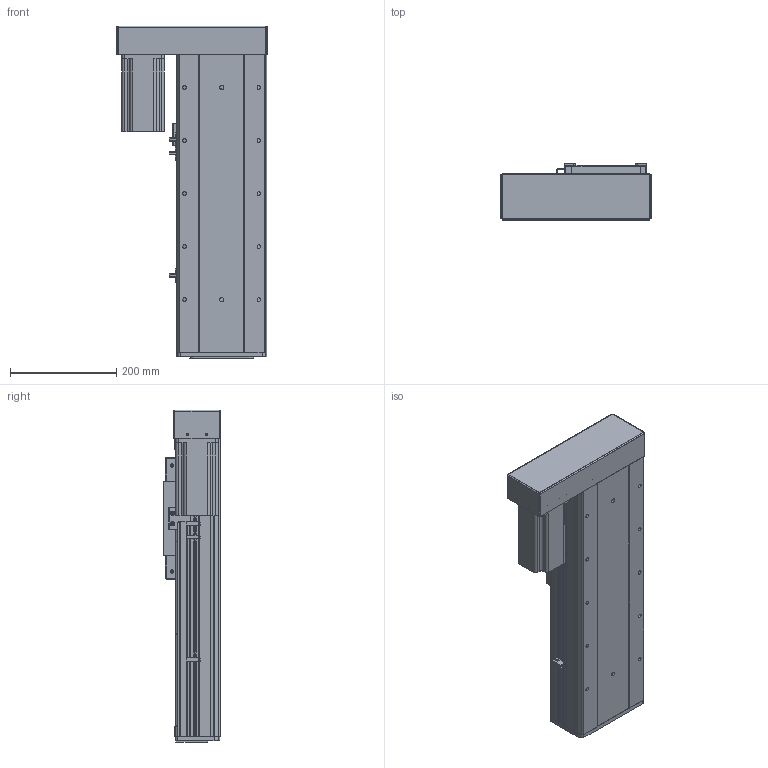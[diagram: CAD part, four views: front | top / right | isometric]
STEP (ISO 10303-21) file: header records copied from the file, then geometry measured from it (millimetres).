
FILE_DESCRIPTION (( 'STEP AP203' ), '1' );
FILE_NAME ('RY170F-L2020-300-LK.SLDASM_250.step', '2021-03-02T09:00:19', ( '盈信电脑' ), ( '东莞市道滘镇水果街19号' ), 'SwSTEP 2.0', 'SolidWorks 2012', '' );
FILE_SCHEMA (( 'CONFIG_CONTROL_DESIGN' ));
Length unit declared in the file: millimetre
Products named in the file (20): RY170F酘衵殏萇儂欶; 怢湛750W萇儂ㄗ80遺ㄘ; RY170F-L2020-300-LK.SLDASM_250; RY170F-蛌殏萇儂假蚾啣; 滅袉蝶18-24; 侐源滅袉蝶; RY170F-酘衵殏萇儂釱; RY170F俋离覜茼え; RY170F-揤踡謫假蚾粣; RY170F-詩湍揤踡輸; 覜茼ん672; RY170F-300眻蟀倰第奻裔啣-LK_250; RY100F-詩湍揤踡謫; RY170F-綴裔啣; 滅袉蝶18-10; RY170F-丝杆铝滑块连接板; RY170F-300眻蟀倰第菁釱-LK_250; RY170F-佪裝臏賑輸20蹟譫; RY170F-滅鳥奻裔; RY170F-300眻蟀祥凄詩湍-LK_250
Assembly tree (24 placements, depth 2):
  RY170F-L2020-300-LK.SLDASM_250
    RY170F-滅鳥奻裔
    RY170F-300眻蟀祥凄詩湍-LK_250
    RY170F-300眻蟀倰第菁釱-LK_250
    RY170F-佪裝臏賑輸20蹟譫
    RY170F-丝杆铝滑块连接板
    RY170F-300眻蟀倰第奻裔啣-LK_250  x2
    滅袉蝶18-10
    RY100F-詩湍揤踡謫
    RY170F-綴裔啣
    覜茼ん672  x3
    RY170F俋离覜茼え
    RY170F-揤踡謫假蚾粣
    RY170F-詩湍揤踡輸  x2
    滅袉蝶18-24
    侐源滅袉蝶  x2
    RY170F-酘衵殏萇儂釱
    RY170F-蛌殏萇儂假蚾啣
    怢湛750W萇儂ㄗ80遺ㄘ
    RY170F酘衵殏萇儂欶
Bounding box: 283 x 107 x 626 mm (x, y, z)
Volume: 4832783.5 mm3; surface area: 1458935 mm2
Topology: 24 solids, 24 shells, 1781 faces, 4946 edges, 3152 vertices
Faces by surface type: cylinder 833, plane 760, cone 180, bspline 8
Entity records: 51059 total; most frequent: CARTESIAN_POINT 10372, DIRECTION 8215, ORIENTED_EDGE 7880, EDGE_CURVE 3940, AXIS2_PLACEMENT_3D 2945, VERTEX_POINT 2572, LINE 2325, VECTOR 2325
